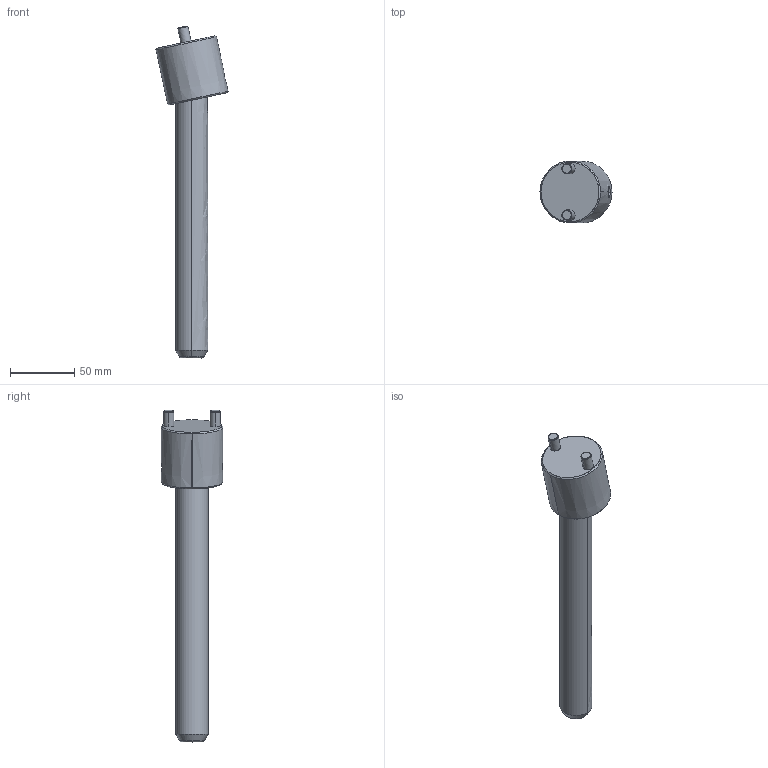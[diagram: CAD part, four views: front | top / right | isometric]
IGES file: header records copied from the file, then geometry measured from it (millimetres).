
Start section: SolidWorks IGES file using analytic representation for surfaces
Global section: file name: D:\Current\W1\Data\CI1225200\CI1225200.IGS; native system: SolidWorks 2017; preprocessor: SolidWorks 2017; author: Ravi Kalvai; date: 231207.175251; units: millimetre
Bounding box: 55.89 x 48 x 257.52 mm (x, y, z)
Surface area: 33532.1 mm2 (no closed solid volume)
Topology: 0 solids, 0 shells, 37 faces, 740 edges, 738 vertices
Faces by surface type: revolution 28, bspline 9
